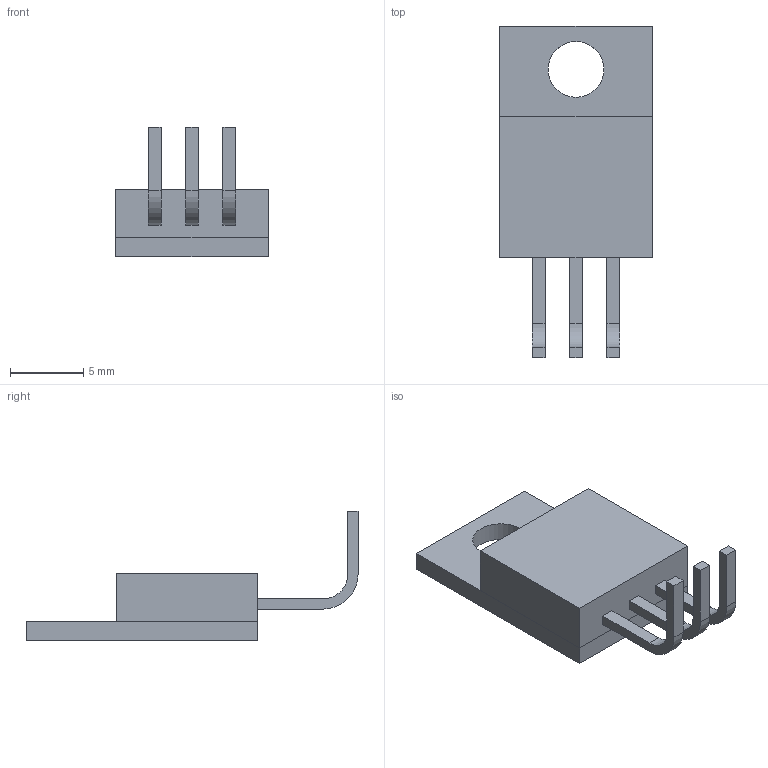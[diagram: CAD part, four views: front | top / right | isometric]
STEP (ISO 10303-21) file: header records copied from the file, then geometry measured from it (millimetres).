
FILE_DESCRIPTION(('Open CASCADE Model'),'2;1');
FILE_NAME('Open CASCADE Shape Model','2026-10-21T15:58:52',('Author'),( 'Open CASCADE'),'Open CASCADE STEP processor 7.9','Open CASCADE 7.9' ,'Unknown');
FILE_SCHEMA(('AUTOMOTIVE_DESIGN { 1 0 10303 214 1 1 1 1 }'));
Length unit declared in the file: millimetre
Products named in the file (6): 8c1ffd64-cd57-11f1-a6f6-f197ec47fad9; Q401_tab; Q401_body; Q401_lead1; Q401_lead2; Q401_lead3
Assembly tree (5 placements, depth 2):
  8c1ffd64-cd57-11f1-a6f6-f197ec47fad9
    Q401_tab
    Q401_body
    Q401_lead1
    Q401_lead2
    Q401_lead3
Bounding box: 10.4 x 22.6 x 8.8 mm (x, y, z)
Volume: 549.7 mm3; surface area: 837 mm2
Topology: 5 solids, 5 shells, 43 faces, 99 edges, 66 vertices
Faces by surface type: plane 36, cylinder 7
Full cylindrical faces by diameter (mm): 3.8 x1
Entity records: 2657 total; most frequent: CARTESIAN_POINT 460, DIRECTION 401, LINE 269, VECTOR 269, ORIENTED_EDGE 198, PCURVE 198, DEFINITIONAL_REPRESENTATION 198, EDGE_CURVE 99
